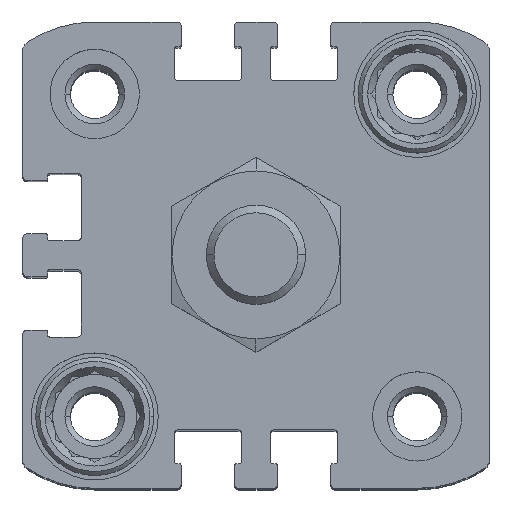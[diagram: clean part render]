
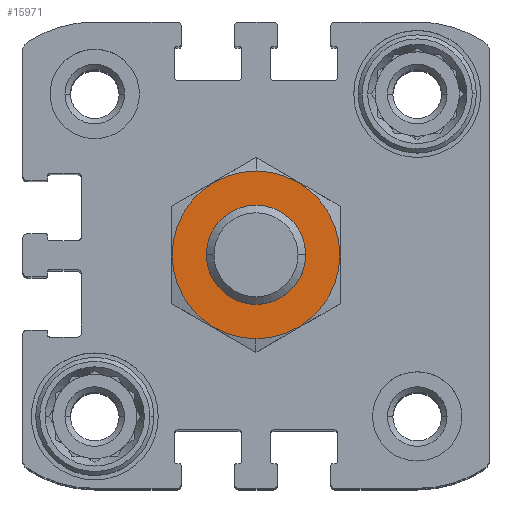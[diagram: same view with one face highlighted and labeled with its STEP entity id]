
A CAD part, top view. The second image highlights one B-rep face of the part: STEP entity #15971.
In plain terms, the highlighted planar face has unit normal (0, 0, 1) as drawn and (0, 1, 0) by its records, which use the part's own axes.
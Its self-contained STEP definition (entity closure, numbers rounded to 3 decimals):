
#419 = VERTEX_POINT ( 'NONE', #3632 ) ;
#802 = FACE_OUTER_BOUND ( 'NONE', #10986, .T. ) ;
#1066 = VERTEX_POINT ( 'NONE', #1254 ) ;
#1254 = CARTESIAN_POINT ( 'NONE',  ( 0., 0., -5. ) ) ;
#1704 = CARTESIAN_POINT ( 'NONE',  ( 0., 0., 0. ) ) ;
#1847 = CIRCLE ( 'NONE', #5712, 5. ) ;
#1955 = FACE_BOUND ( 'NONE', #11670, .T. ) ;
#3001 = DIRECTION ( 'NONE',  ( 0., 0., 1. ) ) ;
#3531 = AXIS2_PLACEMENT_3D ( 'NONE', #1704, #10781, #3001 ) ;
#3632 = CARTESIAN_POINT ( 'NONE',  ( 0., 0., 8.45 ) ) ;
#4052 = DIRECTION ( 'NONE',  ( 0., 1., 0. ) ) ;
#4080 = DIRECTION ( 'NONE',  ( 0., -1., 0. ) ) ;
#4323 = CARTESIAN_POINT ( 'NONE',  ( 0., 0., 5. ) ) ;
#4939 = CARTESIAN_POINT ( 'NONE',  ( 0., 0., 0. ) ) ;
#5712 = AXIS2_PLACEMENT_3D ( 'NONE', #11741, #4052, #12941 ) ;
#6029 = CIRCLE ( 'NONE', #7061, 8.45 ) ;
#6259 = DIRECTION ( 'NONE',  ( 0., 0., -1. ) ) ;
#6519 = ORIENTED_EDGE ( 'NONE', *, *, #8779, .F. ) ;
#6557 = EDGE_CURVE ( 'NONE', #419, #7721, #11455, .T. ) ;
#7061 = AXIS2_PLACEMENT_3D ( 'NONE', #11767, #4080, #12979 ) ;
#7150 = AXIS2_PLACEMENT_3D ( 'NONE', #4939, #13805, #6259 ) ;
#7721 = VERTEX_POINT ( 'NONE', #7972 ) ;
#7972 = CARTESIAN_POINT ( 'NONE',  ( 0., 0., -8.45 ) ) ;
#8350 = VERTEX_POINT ( 'NONE', #4323 ) ;
#8779 = EDGE_CURVE ( 'NONE', #8350, #1066, #1847, .T. ) ;
#9702 = CIRCLE ( 'NONE', #3531, 5. ) ;
#9726 = EDGE_CURVE ( 'NONE', #1066, #8350, #9702, .T. ) ;
#9945 = ORIENTED_EDGE ( 'NONE', *, *, #9726, .F. ) ;
#10214 = CARTESIAN_POINT ( 'NONE',  ( 0., 0., 0. ) ) ;
#10781 = DIRECTION ( 'NONE',  ( 0., 1., 0. ) ) ;
#10986 = EDGE_LOOP ( 'NONE', ( #15958, #11377 ) ) ;
#11377 = ORIENTED_EDGE ( 'NONE', *, *, #6557, .F. ) ;
#11455 = CIRCLE ( 'NONE', #7150, 8.45 ) ;
#11466 = PLANE ( 'NONE',  #15806 ) ;
#11670 = EDGE_LOOP ( 'NONE', ( #6519, #9945 ) ) ;
#11741 = CARTESIAN_POINT ( 'NONE',  ( 0., 0., 0. ) ) ;
#11767 = CARTESIAN_POINT ( 'NONE',  ( 0., 0., 0. ) ) ;
#11845 = EDGE_CURVE ( 'NONE', #7721, #419, #6029, .T. ) ;
#12674 = DIRECTION ( 'NONE',  ( 0., 0., -1. ) ) ;
#12941 = DIRECTION ( 'NONE',  ( 0., 0., 1. ) ) ;
#12979 = DIRECTION ( 'NONE',  ( 0., 0., -1. ) ) ;
#13805 = DIRECTION ( 'NONE',  ( 0., -1., 0. ) ) ;
#13850 = DIRECTION ( 'NONE',  ( 0., -1., 0. ) ) ;
#15806 = AXIS2_PLACEMENT_3D ( 'NONE', #10214, #13850, #12674 ) ;
#15958 = ORIENTED_EDGE ( 'NONE', *, *, #11845, .F. ) ;
#15971 = ADVANCED_FACE ( 'NONE', ( #1955, #802 ), #11466, .F. ) ;
